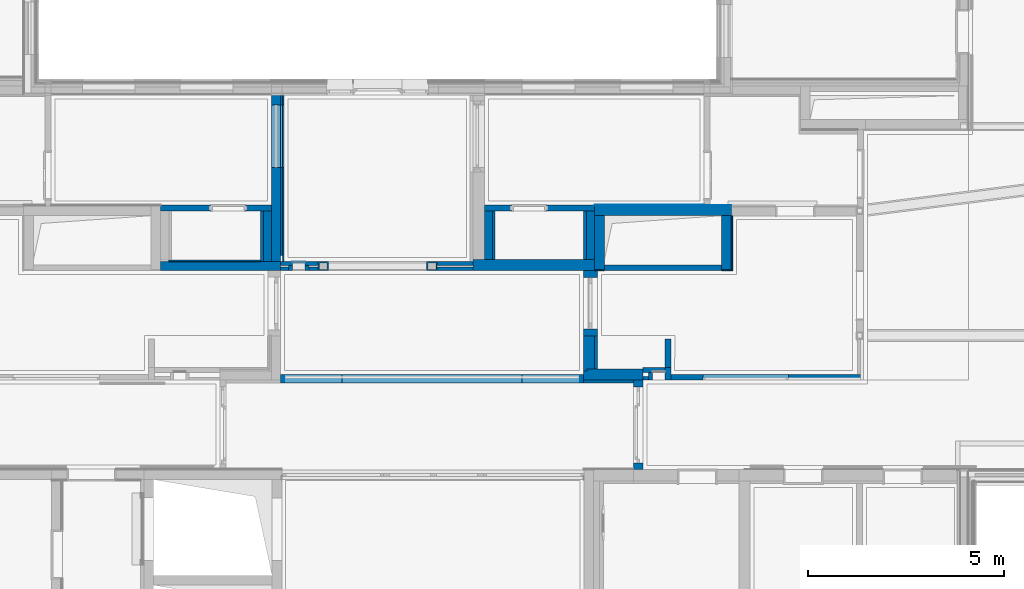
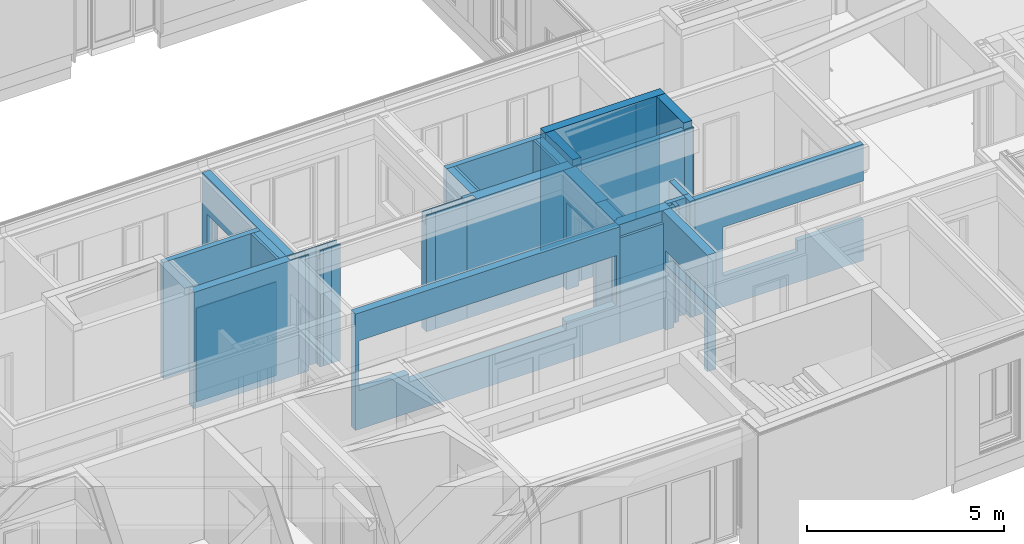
# One storey, part 27 of 207: 47 walls, 12 openings.
"""IFC4 building model written with IfcOpenShell, lengths in metres."""

from ifc_helpers import new_model, entity, si_unit, converted_unit, derived_unit, frame, frame_2d, origin, origin_with_axes, place, context, subcontext, project, spatial, polyline, rectangle, outline, extrude, clip, bounded_halfspace, material, element, save


model = new_model("IFC4")

# Units and contexts
model_context = context("Model", 3, precision=1e-05, world=origin())
body_context = subcontext(model_context, "Body", "Model", "MODEL_VIEW")
ifc_project = project(units=[si_unit("LENGTHUNIT", "METRE"), si_unit("AREAUNIT", "SQUARE_METRE"), si_unit("VOLUMEUNIT", "CUBIC_METRE"), si_unit("MASSUNIT", "GRAM", prefix="KILO"), converted_unit("PLANEANGLEUNIT", "DEGREE", entity("IfcPlaneAngleMeasure", 0.0174532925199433), si_unit("PLANEANGLEUNIT", "RADIAN"), dimensions=[0, 0, 0, 0, 0, 0, 0]), derived_unit("THERMALTRANSMITTANCEUNIT", [(si_unit("POWERUNIT", "WATT"), 1), (si_unit("THERMODYNAMICTEMPERATUREUNIT", "KELVIN"), -1), (si_unit("LENGTHUNIT", "METRE"), -2)]), derived_unit("VOLUMETRICFLOWRATEUNIT", [(si_unit("LENGTHUNIT", "METRE"), 3), (converted_unit("TIMEUNIT", "hour", entity("IfcTimeMeasure", 3600.0), si_unit("TIMEUNIT", "SECOND"), dimensions=[0, 0, 1, 0, 0, 0, 0]), -1), (si_unit("LENGTHUNIT", "METRE"), -1)])], contexts=[model_context])

# Site, building, storey
site_placement = place(None, origin())
site = spatial("IfcSite", under=ifc_project, at=site_placement, Name="Psychiatrie Neubau Wunstorf", CompositionType="ELEMENT")
building_placement = place(site_placement, origin())
building = spatial("IfcBuilding", under=site, at=building_placement, Name="Neubau H2 Stationsgebäude", CompositionType="ELEMENT")
storey_placement = place(building_placement, frame((0.0, 0.0, -0.2)))
storey = spatial("IfcBuildingStorey", under=building, at=storey_placement, Name="H2 Ebene 0", CompositionType="ELEMENT", Elevation=-0.2)

# Walls
ifc_material_1 = material(Name="WI-HW 60")
wall_1_placement = place(storey_placement, frame((58.2600000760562, 3.95247719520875, 0.0), z_axis=(0.0, 0.0, 1.0), x_axis=(0.0, -1.0, 0.0)))
element("IfcWall", 1, at=wall_1_placement, inside=storey, material=ifc_material_1, context=body_context, shape_type="SweptSolid", body=[
    extrude(outline(polyline([(-0.903000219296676, 0.0), (0.0, 0.0), (0.0, 0.0999925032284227), (-0.0579999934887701, 0.0999875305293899), (-0.0580162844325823, 0.289999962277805), (-0.903000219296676, 0.289999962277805), (-0.903000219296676, 0.0)])), frame((0.903000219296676, 0.0, 0.0), z_axis=(0.0, 0.0, 1.0), x_axis=(1.0, 0.0, 0.0)), (0.0, 0.0, 1.0), 3.6),
])
ifc_material_2 = material(Name="WI-LB")
wall_2_placement = place(storey_placement, frame((58.550000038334, 3.95247719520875, 0.0), z_axis=(0.0, 0.0, 1.0), x_axis=(0.0, -1.0, 0.0)))
element("IfcWall", 2, at=wall_2_placement, inside=storey, material=ifc_material_2, context=body_context, shape_type="SweptSolid", body=[
    extrude(outline(polyline([(-0.844983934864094, 0.0), (0.0, 0.0), (-6.43021498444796e-06, 0.075), (-0.844983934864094, 0.075), (-0.844983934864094, 0.0)])), frame((0.844983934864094, 0.0, 0.0), z_axis=(0.0, 0.0, 1.0), x_axis=(1.0, 0.0, 0.0)), (0.0, 0.0, 1.0), 3.6),
])
ifc_material_3 = material(Name="Installationsraum")
wall_3_placement = place(storey_placement, frame((50.2860000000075, 5.84950021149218, 0.0), z_axis=(0.0, 0.0, 1.0), x_axis=(0.0, 1.0, 0.0)))
element("IfcWall", 3, at=wall_3_placement, inside=storey, material=ifc_material_3, context=body_context, shape_type="SweptSolid", body=[
    extrude(rectangle(XDim=1.30049947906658, YDim=0.2, at=frame_2d((0.65024973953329, 0.1), x_axis=(1.0, 0.0))), origin_with_axes(), (0.0, 0.0, 1.0), 3.6),
])
ifc_material_4 = material(Name="WI-VS")
wall_4_placement = place(storey_placement, frame((50.0860000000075, 5.84950021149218, 0.0), z_axis=(0.0, 0.0, 1.0), x_axis=(0.0, 1.0, 0.0)))
element("IfcWall", 4, at=wall_4_placement, inside=storey, material=ifc_material_4, context=body_context, shape_type="SweptSolid", body=[
    extrude(rectangle(XDim=1.30049947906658, YDim=0.075, at=frame_2d((0.65024973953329, 0.0375), x_axis=(1.0, 0.0))), origin_with_axes(), (0.0, 0.0, 1.0), 3.6),
])
ifc_material_5 = material(Name="Installationsraum")
wall_5_placement = place(storey_placement, frame((58.5500000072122, 5.90749969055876, 0.0), z_axis=(0.0, 0.0, 1.0), x_axis=(0.0, 1.0, 0.0)))
element("IfcWall", 5, at=wall_5_placement, inside=storey, material=ifc_material_5, context=body_context, shape_type="SweptSolid", body=[
    extrude(rectangle(XDim=1.2425, YDim=0.21, at=frame_2d((0.62125, 0.105), x_axis=(1.0, 0.0))), origin_with_axes(), (0.0, 0.0, 1.0), 3.6),
])
ifc_material_6 = material(Name="WI-VS")
wall_6_placement = place(storey_placement, frame((58.3400000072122, 5.90749969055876, 0.0), z_axis=(0.0, 0.0, 1.0), x_axis=(0.0, 1.0, 0.0)))
element("IfcWall", 6, at=wall_6_placement, inside=storey, material=ifc_material_6, context=body_context, shape_type="SweptSolid", body=[
    extrude(rectangle(XDim=1.2425, YDim=0.075, at=frame_2d((0.62125, 0.0375), x_axis=(1.0, 0.0))), origin_with_axes(), (0.0, 0.0, 1.0), 3.6),
])
ifc_material_7 = material(Name="Installationsraum")
wall_7_placement = place(storey_placement, frame((55.7325000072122, 7.14999969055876, 0.0), z_axis=(0.0, 0.0, 1.0), x_axis=(0.0, -1.0, 0.0)))
element("IfcWall", 7, at=wall_7_placement, inside=storey, material=ifc_material_7, context=body_context, shape_type="SweptSolid", body=[
    extrude(rectangle(XDim=1.2425, YDim=0.2, at=frame_2d((0.62125, 0.1), x_axis=(1.0, 0.0))), origin_with_axes(), (0.0, 0.0, 1.0), 3.6),
])
ifc_material_8 = material(Name="WI-VS")
wall_8_placement = place(storey_placement, frame((55.9325000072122, 7.14999969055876, 0.0), z_axis=(0.0, 0.0, 1.0), x_axis=(0.0, -1.0, 0.0)))
element("IfcWall", 8, at=wall_8_placement, inside=storey, material=ifc_material_8, context=body_context, shape_type="SweptSolid", body=[
    extrude(rectangle(XDim=1.2425, YDim=0.075, at=frame_2d((0.62125, 0.0375), x_axis=(1.0, 0.0))), origin_with_axes(), (0.0, 0.0, 1.0), 3.6),
])
ifc_material_9 = material(Name="WI-HW 60")
wall_9_placement = place(storey_placement, frame((58.5500000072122, 5.90749969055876, 0.0), z_axis=(0.0, 0.0, 1.0), x_axis=(-1.0, 0.0, 0.0)))
element("IfcWall", 9, at=wall_9_placement, inside=storey, material=ifc_material_9, context=body_context, shape_type="Clipping", body=[
    clip(extrude(rectangle(XDim=3.1075, YDim=0.29, at=frame_2d((1.55375, 0.145), x_axis=(1.0, 0.0))), origin_with_axes(), (0.0, 0.0, 1.0), 3.6), bounded_halfspace(frame((2.96250009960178, 0.173999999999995, 3.3), z_axis=(0.0, 0.0, -1.0), x_axis=(0.0, 1.0, 0.0)), True, origin_with_axes(), polyline([(3.1075, 0.0939999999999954), (3.1075, 0.253999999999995), (2.81750019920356, 0.253999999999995), (2.81750019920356, 0.0939999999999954), (3.1075, 0.0939999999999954)]))),
])
ifc_material_10 = material(Name="WI-STB")
wall_10_placement = place(storey_placement, frame((58.5500000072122, 7.02499969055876, 0.0)))
element("IfcWall", 10, at=wall_10_placement, inside=storey, material=ifc_material_10, context=body_context, shape_type="SweptSolid", body=[
    extrude(rectangle(XDim=3.5, YDim=0.25, at=frame_2d((1.75, 0.125), x_axis=(1.0, 0.0))), origin_with_axes(), (0.0, 0.0, 1.0), 3.8),
])
ifc_material_11 = material(Name="WI-STB")
wall_11_placement = place(storey_placement, frame((58.5500000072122, 7.02499969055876, 0.0), z_axis=(0.0, 0.0, 1.0), x_axis=(0.0, -1.0, 0.0)))
element("IfcWall", 11, at=wall_11_placement, inside=storey, material=ifc_material_11, context=body_context, shape_type="SweptSolid", body=[
    extrude(rectangle(XDim=1.3775, YDim=0.25, at=frame_2d((0.68875, 0.125), x_axis=(1.0, 0.0))), origin_with_axes(), (0.0, 0.0, 1.0), 3.8),
])

# Wall, opening
ifc_material_12 = material(Name="WI-LB")
wall_12_placement = place(storey_placement, frame((58.5500000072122, 7.29999969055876, 0.0), z_axis=(0.0, 0.0, 1.0), x_axis=(-1.0, 0.0, 0.0)))
wall_12 = element("IfcWall", 12, at=wall_12_placement, inside=storey, material=ifc_material_12, context=body_context, shape_type="SweptSolid", body=[
    extrude(rectangle(XDim=2.8175, YDim=0.15, at=frame_2d((1.40875, 0.075), x_axis=(1.0, 0.0))), origin_with_axes(), (0.0, 0.0, 1.0), 3.6),
])
opening_1_placement = place(wall_12_placement, frame((2.1205, 0.15, 0.0), z_axis=(0.0, -1.0, 0.0), x_axis=(0.0, 0.0, 1.0)))
element("IfcOpeningElement", 13, at=opening_1_placement, cuts=wall_12, Name="Türöffnung", ObjectType="Opening", context=body_context, shape_type="SweptSolid", body=[
    extrude(outline(polyline([(2.46, 0.885), (2.46, 0.0), (0.0, 0.0), (0.0, 0.885), (2.46, 0.885)])), origin_with_axes(), (0.0, 0.0, 1.0), 0.15),
])

# Wall
ifc_material_13 = material(Name="WI-LB")
wall_13_placement = place(storey_placement, frame((50.8210650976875, 5.82449969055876, 0.0)))
element("IfcWall", 14, at=wall_13_placement, inside=storey, material=ifc_material_13, context=body_context, shape_type="SweptSolid", body=[
    extrude(rectangle(XDim=0.325000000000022, YDim=0.025, at=frame_2d((0.162500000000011, 0.0125), x_axis=(1.0, 0.0))), origin_with_axes(), (0.0, 0.0, 1.0), 3.6),
])

# Wall, opening
ifc_material_14 = material(Name="WI-LB")
wall_14_placement = place(storey_placement, frame((50.2860000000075, 7.29999969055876, 0.0), z_axis=(0.0, 0.0, 1.0), x_axis=(-1.0, 0.0, 0.0)))
wall_14 = element("IfcWall", 15, at=wall_14_placement, inside=storey, material=ifc_material_14, context=body_context, shape_type="SweptSolid", body=[
    extrude(rectangle(XDim=2.836, YDim=0.15, at=frame_2d((1.418, 0.075), x_axis=(1.0, 0.0))), origin_with_axes(), (0.0, 0.0, 1.0), 3.6),
])
opening_2_placement = place(wall_14_placement, frame((1.5535, 0.15, 0.0), z_axis=(0.0, -1.0, 0.0), x_axis=(0.0, 0.0, 1.0)))
element("IfcOpeningElement", 16, at=opening_2_placement, cuts=wall_14, Name="Türöffnung", ObjectType="Opening", context=body_context, shape_type="SweptSolid", body=[
    extrude(outline(polyline([(2.46, 0.885), (2.46, 0.0), (0.0, 0.0), (0.0, 0.885), (2.46, 0.885)])), origin_with_axes(), (0.0, 0.0, 1.0), 0.15),
])

# Walls
ifc_material_15 = material(Name="WI-LB")
wall_15_placement = place(storey_placement, frame((61.35, 7.27499969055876, 0.0)))
element("IfcWall", 17, at=wall_15_placement, inside=storey, material=ifc_material_15, context=body_context, shape_type="SweptSolid", body=[
    extrude(rectangle(XDim=0.700000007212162, YDim=0.02, at=frame_2d((0.350000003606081, 0.01), x_axis=(1.0, 0.0))), origin_with_axes(), (0.0, 0.0, 1.0), 3.6),
])
ifc_material_16 = material(Name="WI-LB")
wall_16_placement = place(storey_placement, frame((62.0500000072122, 7.02299969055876, 0.0), z_axis=(0.0, 0.0, 1.0), x_axis=(0.0, -1.0, 0.0)))
element("IfcWall", 18, at=wall_16_placement, inside=storey, material=ifc_material_16, context=body_context, shape_type="SweptSolid", body=[
    extrude(rectangle(XDim=1.40549963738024, YDim=0.0299996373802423, at=frame_2d((0.702749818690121, 0.0149998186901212), x_axis=(1.0, 0.0))), origin_with_axes(), (0.0, 0.0, 1.0), 3.6),
])
ifc_material_17 = material(Name="WI-LB")
wall_17_placement = place(storey_placement, frame((58.5500000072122, 7.27499969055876, 0.0)))
element("IfcWall", 19, at=wall_17_placement, inside=storey, material=ifc_material_17, context=body_context, shape_type="SweptSolid", body=[
    extrude(rectangle(XDim=2.79999999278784, YDim=0.025, at=frame_2d((1.39999999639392, 0.0125), x_axis=(1.0, 0.0))), origin_with_axes(), (0.0, 0.0, 1.0), 3.6),
])
ifc_material_18 = material(Name="WI-LB")
wall_18_placement = place(storey_placement, frame((61.8000000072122, 5.61750005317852, 0.0)))
element("IfcWall", 20, at=wall_18_placement, inside=storey, material=ifc_material_18, context=body_context, shape_type="SweptSolid", body=[
    extrude(rectangle(XDim=0.25, YDim=0.0299996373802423, at=frame_2d((0.125, 0.0149998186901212), x_axis=(1.0, 0.0))), origin_with_axes(), (0.0, 0.0, 1.0), 3.6),
])
ifc_material_19 = material(Name="WI-LB")
wall_19_placement = place(storey_placement, frame((58.8000000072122, 5.61749969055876, 0.0)))
element("IfcWall", 21, at=wall_19_placement, inside=storey, material=ifc_material_19, context=body_context, shape_type="SweptSolid", body=[
    extrude(rectangle(XDim=3.0, YDim=0.15, at=frame_2d((1.5, 0.075), x_axis=(1.0, 0.0))), origin_with_axes(), (0.0, 0.0, 1.0), 3.6),
])
ifc_material_20 = material(Name="WI-STB")
wall_20_placement = place(storey_placement, frame((61.8000000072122, 7.02499969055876, 0.0), z_axis=(0.0, 0.0, 1.0), x_axis=(0.0, -1.0, 0.0)))
element("IfcWall", 22, at=wall_20_placement, inside=storey, material=ifc_material_20, context=body_context, shape_type="SweptSolid", body=[
    extrude(rectangle(XDim=1.3775, YDim=0.25, at=frame_2d((0.68875, 0.125), x_axis=(1.0, 0.0))), origin_with_axes(), (0.0, 0.0, 1.0), 3.8),
])
ifc_material_21 = material(Name="WI-LB")
wall_21_placement = place(storey_placement, frame((58.5500000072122, 5.61750005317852, 0.0)))
element("IfcWall", 23, at=wall_21_placement, inside=storey, material=ifc_material_21, context=body_context, shape_type="SweptSolid", body=[
    extrude(rectangle(XDim=0.25, YDim=0.0299996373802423, at=frame_2d((0.125, 0.0149998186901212), x_axis=(1.0, 0.0))), origin_with_axes(), (0.0, 0.0, 1.0), 3.6),
])
ifc_material_22 = material(Name="WI-IW")
wall_22_placement = place(storey_placement, frame((59.9250000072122, 3.01756972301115, 0.0), z_axis=(0.0, 0.0, 1.0), x_axis=(0.0, -1.0, 0.0)))
element("IfcWall", 24, at=wall_22_placement, inside=storey, material=ifc_material_22, context=body_context, shape_type="SweptSolid", body=[
    extrude(rectangle(XDim=0.200056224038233, YDim=0.1, at=frame_2d((0.100028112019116, 0.05), x_axis=(1.0, 0.0))), origin_with_axes(), (0.0, 0.0, 1.0), 3.6),
])
ifc_material_23 = material(Name="WI-IW")
wall_23_placement = place(storey_placement, frame((59.9250000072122, 2.91751349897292, 0.0), z_axis=(0.0, 0.0, 1.0), x_axis=(-1.0, 0.0, 0.0)))
element("IfcWall", 25, at=wall_23_placement, inside=storey, material=ifc_material_23, context=body_context, shape_type="SweptSolid", body=[
    extrude(rectangle(XDim=0.135686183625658, YDim=0.100000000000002, at=frame_2d((0.0678430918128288, 0.0500000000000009), x_axis=(1.0, 0.0))), origin_with_axes(), (0.0, 0.0, 1.0), 3.6),
])
ifc_material_24 = material(Name="WI-LB")
wall_24_placement = place(storey_placement, frame((60.3500000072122, 3.14256972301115, 0.0), z_axis=(0.0, 0.0, 1.0), x_axis=(-1.0, 0.0, 0.0)))
element("IfcWall", 26, at=wall_24_placement, inside=storey, material=ifc_material_24, context=body_context, shape_type="SweptSolid", body=[
    extrude(rectangle(XDim=0.560686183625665, YDim=0.125, at=frame_2d((0.280343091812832, 0.0625), x_axis=(1.0, 0.0))), origin_with_axes(), (0.0, 0.0, 1.0), 3.6),
])

# Wall, openings
ifc_material_25 = material(Name="WI-RIR")
wall_25_placement = place(storey_placement, frame((60.5000000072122, 2.81762600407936, 0.0), z_axis=(0.0, 0.0, 1.0), x_axis=(0.999999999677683, -2.5389652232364e-05, 0.0)))
wall_25 = element("IfcWall", 27, at=wall_25_placement, inside=storey, material=ifc_material_25, context=body_context, shape_type="SweptSolid", body=[
    extrude(outline(polyline([(0.0, 0.000125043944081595), (4.92499632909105, 0.000125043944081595), (4.92499252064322, 0.150125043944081), (0.0, 0.150125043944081), (0.0, 0.000125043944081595)])), frame((0.0, -0.000125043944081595, 0.0), z_axis=(0.0, 0.0, 1.0), x_axis=(1.0, 0.0, 0.0)), (0.0, 0.0, 1.0), 3.6),
])
opening_3_placement = place(wall_25_placement, frame((3.00236463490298, 0.0, 1.28), z_axis=(0.0, 0.0, 1.0), x_axis=(1.0, 8.90506778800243e-16, 0.0)))
element("IfcOpeningElement", 28, at=opening_3_placement, cuts=wall_25, Name="Fensteröffnung", ObjectType="Opening", context=body_context, shape_type="SweptSolid", body=[
    extrude(outline(polyline([(0.0, 0.0), (1.9226316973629, 0.0), (1.92262788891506, 0.149999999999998), (0.0, 0.150000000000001), (0.0, 0.0)])), origin_with_axes(), (0.0, 0.0, 1.0), 1.18),
])
opening_4_placement = place(wall_25_placement, frame((0.817618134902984, 0.0, 0.950000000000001), z_axis=(-1.88113820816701e-12, 1.0, 0.0), x_axis=(0.0, 0.0, 1.0)))
element("IfcOpeningElement", 29, at=opening_4_placement, cuts=wall_25, Name="Fensteröffnung", ObjectType="Opening", context=body_context, shape_type="SweptSolid", body=[
    extrude(outline(polyline([(1.51, 2.1847465), (1.51, 0.0), (0.0, 0.0), (0.0, 2.1847465), (1.51, 2.1847465)])), origin_with_axes(), (0.0, 0.0, 1.0), 0.15),
])

# Walls
ifc_material_26 = material(Name="WI-LB")
wall_26_placement = place(storey_placement, frame((55.4425000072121, 5.84949969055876, 0.0), z_axis=(0.0, 0.0, 1.0), x_axis=(-1.0, 0.0, 0.0)))
element("IfcWall", 30, at=wall_26_placement, inside=storey, material=ifc_material_26, context=body_context, shape_type="Clipping", body=[
    clip(extrude(rectangle(XDim=0.918006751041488, YDim=0.1, at=frame_2d((0.459003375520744, 0.05), x_axis=(1.0, 0.0))), origin_with_axes(), (0.0, 0.0, 1.0), 3.6), bounded_halfspace(frame((0.459003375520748, 0.0679999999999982, 3.3), z_axis=(0.0, 0.0, -1.0), x_axis=(-1.0, 0.0, 0.0)), True, origin_with_axes(), polyline([(0.918006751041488, 0.1), (0.0, 0.1), (0.0, 0.0359999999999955), (0.918006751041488, 0.0359999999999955), (0.918006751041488, 0.1)]))),
])
ifc_material_27 = material(Name="WI-LB")
wall_27_placement = place(storey_placement, frame((54.5244932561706, 5.61749969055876, 0.0)))
element("IfcWall", 31, at=wall_27_placement, inside=storey, material=ifc_material_27, context=body_context, shape_type="Clipping", body=[
    clip(extrude(rectangle(XDim=0.918006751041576, YDim=0.1, at=frame_2d((0.459003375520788, 0.05), x_axis=(1.0, 0.0))), origin_with_axes(), (0.0, 0.0, 1.0), 3.6), bounded_halfspace(frame((0.459003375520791, 0.0680000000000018, 3.3), z_axis=(0.0, 0.0, -1.0), x_axis=(0.0, -1.0, 0.0)), True, origin_with_axes(), polyline([(0.0, 0.1), (0.0, 0.0360000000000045), (0.918006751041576, 0.0360000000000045), (0.918006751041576, 0.1), (0.0, 0.1)]))),
])
ifc_material_28 = material(Name="WI-LB")
wall_28_placement = place(storey_placement, frame((51.4759953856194, 5.84949969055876, 0.0), z_axis=(0.0, 0.0, 1.0), x_axis=(-1.0, 0.0, 0.0)))
element("IfcWall", 32, at=wall_28_placement, inside=storey, material=ifc_material_28, context=body_context, shape_type="Clipping", body=[
    clip(extrude(rectangle(XDim=0.329930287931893, YDim=0.1, at=frame_2d((0.164965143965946, 0.05), x_axis=(1.0, 0.0))), origin_with_axes(), (0.0, 0.0, 1.0), 3.6), bounded_halfspace(frame((0.164965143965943, 0.0679999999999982, 3.3), z_axis=(0.0, 0.0, -1.0), x_axis=(1.0, 0.0, 0.0)), True, origin_with_axes(), polyline([(0.0, 0.0359999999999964), (0.329930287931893, 0.0359999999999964), (0.329930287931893, 0.1), (0.0, 0.1), (0.0, 0.0359999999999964)]))),
])
ifc_material_29 = material(Name="WI-LB")
wall_29_placement = place(storey_placement, frame((51.1460650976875, 5.74949969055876, 0.0), z_axis=(0.0, 0.0, 1.0), x_axis=(0.0, -1.0, 0.0)))
element("IfcWall", 33, at=wall_29_placement, inside=storey, material=ifc_material_29, context=body_context, shape_type="Clipping", body=[
    clip(extrude(rectangle(XDim=0.131999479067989, YDim=0.1, at=frame_2d((0.0659997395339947, 0.05), x_axis=(1.0, 0.0))), origin_with_axes(), (0.0, 0.0, 1.0), 3.6), bounded_halfspace(frame((0.0479999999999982, 0.05, 3.3), z_axis=(0.0, 0.0, -1.0), x_axis=(1.0, 0.0, 0.0)), True, origin_with_axes(), polyline([(0.0, 0.0), (0.0959999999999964, 0.0), (0.0959999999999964, 0.1), (0.0, 0.1), (0.0, 0.0)]))),
])
ifc_material_30 = material(Name="WI-LB")
wall_30_placement = place(storey_placement, frame((51.2460650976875, 5.61750021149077, 0.0)))
element("IfcWall", 34, at=wall_30_placement, inside=storey, material=ifc_material_30, context=body_context, shape_type="Clipping", body=[
    clip(extrude(rectangle(XDim=0.229930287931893, YDim=0.1, at=frame_2d((0.114965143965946, 0.05), x_axis=(1.0, 0.0))), origin_with_axes(), (0.0, 0.0, 1.0), 3.6), bounded_halfspace(frame((0.11496514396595, 0.067999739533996, 3.3), z_axis=(0.0, 0.0, -1.0), x_axis=(0.0, -1.0, 0.0)), True, origin_with_axes(), polyline([(0.0, 0.1), (0.0, 0.035999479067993), (0.229930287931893, 0.035999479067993), (0.229930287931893, 0.1), (0.0, 0.1)]))),
])
ifc_material_31 = material(Name="WI-LB")
wall_31_placement = place(storey_placement, frame((50.8210650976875, 5.84949969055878, 0.0), z_axis=(0.0, 0.0, 1.0), x_axis=(-1.0, 0.0, 0.0)))
element("IfcWall", 35, at=wall_31_placement, inside=storey, material=ifc_material_31, context=body_context, shape_type="Clipping", body=[
    clip(extrude(rectangle(XDim=0.303065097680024, YDim=0.1, at=frame_2d((0.151532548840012, 0.05), x_axis=(1.0, 0.0))), origin_with_axes(), (0.0, 0.0, 1.0), 3.6), bounded_halfspace(frame((0.151532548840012, 0.0680000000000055, 3.3), z_axis=(0.0, 0.0, -1.0), x_axis=(-1.0, 0.0, 0.0)), True, origin_with_axes(), polyline([(0.303065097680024, 0.1), (0.0, 0.1), (0.0, 0.03600000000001), (0.303065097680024, 0.03600000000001), (0.303065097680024, 0.1)]))),
])
ifc_material_32 = material(Name="WI-LB")
wall_32_placement = place(storey_placement, frame((50.8210650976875, 5.61749969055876, 0.0), z_axis=(0.0, 0.0, 1.0), x_axis=(0.0, 1.0, 0.0)))
element("IfcWall", 36, at=wall_32_placement, inside=storey, material=ifc_material_32, context=body_context, shape_type="Clipping", body=[
    clip(extrude(rectangle(XDim=0.132000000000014, YDim=0.1, at=frame_2d((0.0660000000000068, 0.05), x_axis=(1.0, 0.0))), origin_with_axes(), (0.0, 0.0, 1.0), 3.6), bounded_halfspace(frame((0.0840000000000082, 0.05, 3.3), z_axis=(0.0, 0.0, -1.0), x_axis=(-1.0, 0.0, 0.0)), True, origin_with_axes(), polyline([(0.132000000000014, 0.1), (0.0360000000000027, 0.1), (0.0360000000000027, 0.0), (0.132000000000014, 0.0), (0.132000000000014, 0.1)]))),
])
ifc_material_33 = material(Name="WI-LB")
wall_33_placement = place(storey_placement, frame((50.5180000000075, 5.61749969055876, 0.0)))
element("IfcWall", 37, at=wall_33_placement, inside=storey, material=ifc_material_33, context=body_context, shape_type="Clipping", body=[
    clip(extrude(rectangle(XDim=0.203065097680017, YDim=0.1, at=frame_2d((0.101532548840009, 0.05), x_axis=(1.0, 0.0))), origin_with_axes(), (0.0, 0.0, 1.0), 3.6), bounded_halfspace(frame((0.101532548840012, 0.0680000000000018, 3.3), z_axis=(0.0, 0.0, -1.0), x_axis=(0.0, -1.0, 0.0)), True, origin_with_axes(), polyline([(0.0, 0.1), (0.0, 0.0360000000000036), (0.203065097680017, 0.0360000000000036), (0.203065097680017, 0.1), (0.0, 0.1)]))),
])
ifc_material_34 = material(Name="WI-LB")
wall_34_placement = place(storey_placement, frame((51.4759953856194, 5.61749969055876, 0.0)))
element("IfcWall", 38, at=wall_34_placement, inside=storey, material=ifc_material_34, context=body_context, shape_type="Clipping", body=[
    clip(clip(extrude(outline(polyline([(0.0, 0.0), (0.272, 0.0), (0.272, 0.232), (0.0, 0.232), (0.0, 0.0)]), holes=[polyline([(0.236, 0.196), (0.236, 0.036), (0.036, 0.036), (0.036, 0.196), (0.236, 0.196)])]), origin_with_axes(), (0.0, 0.0, 1.0), 3.6), bounded_halfspace(frame((0.018, 0.116000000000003, 3.3), z_axis=(0.0, 0.0, -1.0), x_axis=(0.0, -1.0, 0.0)), True, origin_with_axes(), polyline([(0.0, 0.196000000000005), (0.0, 0.0360000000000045), (0.036, 0.036), (0.036, 0.196), (0.0, 0.196000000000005)]))), bounded_halfspace(frame((0.254, 0.116000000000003, 3.3), z_axis=(0.0, 0.0, -1.0), x_axis=(0.0, -1.0, 0.0)), True, origin_with_axes(), polyline([(0.236, 0.196), (0.236, 0.036), (0.272, 0.0360000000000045), (0.272, 0.196000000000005), (0.236, 0.196)]))),
])
ifc_material_35 = material(Name="WI-LB")
wall_35_placement = place(storey_placement, frame((54.2524932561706, 5.61749969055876, 0.0)))
element("IfcWall", 39, at=wall_35_placement, inside=storey, material=ifc_material_35, context=body_context, shape_type="Clipping", body=[
    clip(clip(extrude(outline(polyline([(0.0, 0.0), (0.272, 0.0), (0.272, 0.232), (0.0, 0.232), (0.0, 0.0)]), holes=[polyline([(0.236, 0.196000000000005), (0.236, 0.0360000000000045), (0.036, 0.0360000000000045), (0.036, 0.196000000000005), (0.236, 0.196000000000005)])]), origin_with_axes(), (0.0, 0.0, 1.0), 3.6), bounded_halfspace(frame((0.018, 0.116000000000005, 3.3), z_axis=(0.0, 0.0, -1.0), x_axis=(0.0, -1.0, 0.0)), True, origin_with_axes(), polyline([(0.0, 0.196000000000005), (0.0, 0.0360000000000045), (0.036, 0.0360000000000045), (0.036, 0.196000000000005), (0.0, 0.196000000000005)]))), bounded_halfspace(frame((0.254, 0.116000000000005, 3.3), z_axis=(0.0, 0.0, -1.0), x_axis=(0.0, -1.0, 0.0)), True, origin_with_axes(), polyline([(0.236, 0.196000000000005), (0.236, 0.0360000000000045), (0.272, 0.0360000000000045), (0.272, 0.196000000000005), (0.236, 0.196000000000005)]))),
])
ifc_material_36 = material(Name="WI-LB")
wall_36_placement = place(storey_placement, frame((58.2601451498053, 2.74249970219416, 0.0), z_axis=(0.0, 0.0, 1.0), x_axis=(0.999999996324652, 8.57361989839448e-05, 0.0)))
element("IfcWall", 40, at=wall_36_placement, inside=storey, material=ifc_material_36, context=body_context, shape_type="SweptSolid", body=[
    extrude(outline(polyline([(6.42965000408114e-06, 0.0), (1.27917510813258, 0.0), (1.27918153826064, 0.074998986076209), (6.42965000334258e-06, 0.0749934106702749), (6.42965000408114e-06, 0.0)])), frame((-6.42965000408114e-06, 0.0, 0.0), z_axis=(0.0, 0.0, 1.0), x_axis=(1.0, 0.0, 0.0)), (0.0, 0.0, 1.0), 3.25),
])
ifc_material_37 = material(Name="WI-HW 60")
wall_37_placement = place(storey_placement, frame((58.2601451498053, 2.81749311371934, 0.0), z_axis=(0.0, 0.0, 1.0), x_axis=(0.999999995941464, 9.00947937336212e-05, 0.0)))
element("IfcWall", 41, at=wall_37_placement, inside=storey, material=ifc_material_37, context=body_context, shape_type="SweptSolid", body=[
    extrude(outline(polyline([(2.63190646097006e-05, 0.0), (1.52919499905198, 0.0), (1.52922112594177, 0.289993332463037), (0.364907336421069, 0.289998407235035), (0.364907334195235, 0.289973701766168), (0.0998949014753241, 0.289974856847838), (0.0998946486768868, 0.231974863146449), (2.09005382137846e-05, 0.231983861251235), (2.05432611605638e-05, 0.150013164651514), (3.98344698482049e-05, 0.150013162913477), (2.63190646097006e-05, 0.0)])), frame((-2.63190646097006e-05, 0.0, 0.0), z_axis=(0.0, 0.0, 1.0), x_axis=(1.0, 0.0, 0.0)), (0.0, 0.0, 1.0), 3.6),
])

# Wall, opening
ifc_material_38 = material(Name="WI-LW 60")
wall_38_placement = place(storey_placement, frame((58.2600000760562, 5.61747697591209, 0.0), z_axis=(0.0, 0.0, 1.0), x_axis=(0.0, -1.0, 0.0)))
wall_38 = element("IfcWall", 42, at=wall_38_placement, inside=storey, material=ifc_material_38, context=body_context, shape_type="SweptSolid", body=[
    extrude(rectangle(XDim=1.66499978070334, YDim=0.365, at=frame_2d((0.832499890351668, 0.1825), x_axis=(1.0, 0.0))), origin_with_axes(), (0.0, 0.0, 1.0), 3.6),
])
opening_5_placement = place(wall_38_placement, frame((1.49499971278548, 0.365, 0.0), z_axis=(0.0, -1.0, 0.0), x_axis=(0.0, 0.0, 1.0)))
element("IfcOpeningElement", 43, at=opening_5_placement, cuts=wall_38, Name="Türöffnung", ObjectType="Opening", context=body_context, shape_type="SweptSolid", body=[
    extrude(outline(polyline([(2.7, 1.32502470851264), (2.7, 0.0), (0.0, 0.0), (0.0, 1.32502470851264), (2.7, 1.32502470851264)])), origin_with_axes(), (0.0, 0.0, 1.0), 0.365),
])

ifc_material_39 = material(Name="WI-LW 60")
wall_39_placement = place(storey_placement, frame((59.5393138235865, 2.81760836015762, 0.0), z_axis=(0.0, 0.0, 1.0), x_axis=(0.0, -1.0, 0.0)))
wall_39 = element("IfcWall", 44, at=wall_39_placement, inside=storey, material=ifc_material_39, context=body_context, shape_type="SweptSolid", body=[
    extrude(outline(polyline([(-2.28160591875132, 0.0), (0.0, 0.0), (0.0, 0.25), (-2.28162844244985, 0.25), (-2.28160591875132, 0.0)])), frame((2.28160591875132, 0.0, 0.0), z_axis=(0.0, 0.0, 1.0), x_axis=(1.0, 0.0, 0.0)), (0.0, 0.0, 1.0), 3.6),
])
opening_6_placement = place(wall_39_placement, frame((2.11161344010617, 0.25, 0.0), z_axis=(0.0, -1.0, 0.0), x_axis=(0.0, 0.0, 1.0)))
element("IfcOpeningElement", 45, at=opening_6_placement, cuts=wall_39, Name="Türöffnung", ObjectType="Opening", context=body_context, shape_type="SweptSolid", body=[
    extrude(outline(polyline([(2.46, 1.9416311), (2.46, 0.0), (0.0, 0.0), (0.0, 1.9416311), (2.46, 1.9416311)])), origin_with_axes(), (0.0, 0.0, 1.0), 0.25),
])

ifc_material_40 = material(Name="WI-LB")
wall_40_placement = place(storey_placement, frame((50.6080000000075, 5.84949969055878, 0.0), z_axis=(0.0, 0.0, 1.0), x_axis=(0.0, 1.0, 0.0)))
wall_40 = element("IfcWall", 46, at=wall_40_placement, inside=storey, material=ifc_material_40, context=body_context, shape_type="SweptSolid", body=[
    extrude(rectangle(XDim=4.26449999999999, YDim=0.04, at=frame_2d((2.13224999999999, 0.02), x_axis=(1.0, 0.0))), origin_with_axes(), (0.0, 0.0, 1.0), 3.2),
])
opening_7_placement = place(wall_40_placement, frame((2.40199999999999, 0.0, 1.15), z_axis=(0.0, 1.0, 0.0), x_axis=(0.0, 0.0, 1.0)))
element("IfcOpeningElement", 47, at=opening_7_placement, cuts=wall_40, Name="Fensteröffnung", ObjectType="Opening", context=body_context, shape_type="SweptSolid", body=[
    extrude(outline(polyline([(1.31, 1.6), (1.31, 0.0), (0.0, 0.0), (0.0, 1.6), (1.31, 1.6)])), origin_with_axes(), (0.0, 0.0, 1.0), 0.04),
])

ifc_material_41 = material(Name="Installationsraum")
wall_41_placement = place(storey_placement, frame((50.5680000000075, 6.01046869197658, 0.0), z_axis=(0.0, 0.0, 1.0), x_axis=(0.0, 1.0, 0.0)))
wall_41 = element("IfcWall", 48, at=wall_41_placement, inside=storey, material=ifc_material_41, context=body_context, shape_type="SweptSolid", body=[
    extrude(rectangle(XDim=4.10353099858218, YDim=0.05, at=frame_2d((2.05176549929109, 0.025), x_axis=(1.0, 0.0))), origin_with_axes(), (0.0, 0.0, 1.0), 3.2),
])
opening_8_placement = place(wall_41_placement, frame((2.24103099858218, 0.0, 1.15), z_axis=(0.0, 1.0, 0.0), x_axis=(0.0, 0.0, 1.0)))
element("IfcOpeningElement", 49, at=opening_8_placement, cuts=wall_41, Name="Fensteröffnung", ObjectType="Opening", context=body_context, shape_type="SweptSolid", body=[
    extrude(outline(polyline([(1.31, 1.6), (1.31, 0.0), (0.0, 0.0), (0.0, 1.6), (1.31, 1.6)])), origin_with_axes(), (0.0, 0.0, 1.0), 0.05),
])

ifc_material_42 = material(Name="WI-HW 60")
wall_42_placement = place(storey_placement, frame((50.5180000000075, 5.84950021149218, 0.0), z_axis=(0.0, 0.0, 1.0), x_axis=(0.0, 1.0, 0.0)))
wall_42 = element("IfcWall", 50, at=wall_42_placement, inside=storey, material=ifc_material_42, context=body_context, shape_type="SweptSolid", body=[
    extrude(rectangle(XDim=4.26449947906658, YDim=0.232, at=frame_2d((2.13224973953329, 0.116), x_axis=(1.0, 0.0))), origin_with_axes(), (0.0, 0.0, 1.0), 3.6),
])
opening_9_placement = place(wall_42_placement, frame((2.40199947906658, 0.0, 1.15), z_axis=(0.0, 1.0, 0.0), x_axis=(0.0, 0.0, 1.0)))
element("IfcOpeningElement", 51, at=opening_9_placement, cuts=wall_42, Name="Fensteröffnung", ObjectType="Opening", context=body_context, shape_type="SweptSolid", body=[
    extrude(outline(polyline([(1.31, 1.6), (1.31, 0.0), (0.0, 0.0), (0.0, 1.6), (1.31, 1.6)])), origin_with_axes(), (0.0, 0.0, 1.0), 0.232),
])

# Walls
ifc_material_43 = material(Name="WI-LB")
wall_43_placement = place(storey_placement, frame((50.0110000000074, 5.88950021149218, 0.0), z_axis=(0.0, 0.0, 1.0), x_axis=(-1.0, 0.0, 0.0)))
element("IfcWall", 52, at=wall_43_placement, inside=storey, material=ifc_material_43, context=body_context, shape_type="SweptSolid", body=[
    extrude(rectangle(XDim=2.351, YDim=0.04, at=frame_2d((1.1755, 0.02), x_axis=(1.0, 0.0))), origin_with_axes(), (0.0, 0.0, 1.0), 2.9),
])
ifc_material_44 = material(Name="WI-HW 60")
wall_44_placement = place(storey_placement, frame((50.5180000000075, 5.84950021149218, 0.0), z_axis=(0.0, 0.0, 1.0), x_axis=(-1.0, 0.0, 0.0)))
element("IfcWall", 53, at=wall_44_placement, inside=storey, material=ifc_material_44, context=body_context, shape_type="Clipping", body=[
    clip(extrude(rectangle(XDim=3.068, YDim=0.232, at=frame_2d((1.534, 0.116), x_axis=(1.0, 0.0))), origin_with_axes(), (0.0, 0.0, 1.0), 3.6), bounded_halfspace(frame((0.116249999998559, 0.116000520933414, 3.3), z_axis=(0.0, 0.0, -1.0), x_axis=(0.0, 1.0, 0.0)), True, origin_with_axes(), polyline([(0.232499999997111, 0.036000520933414), (0.232499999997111, 0.196000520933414), (0.0, 0.196000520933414), (0.0, 0.036000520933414), (0.232499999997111, 0.036000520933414)]))),
])
ifc_material_45 = material(Name="WI-LB")
wall_45_placement = place(storey_placement, frame((60.3500000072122, 3.86762600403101, 0.0), z_axis=(0.0, 0.0, 1.0), x_axis=(0.0, -1.0, 0.0)))
element("IfcWall", 54, at=wall_45_placement, inside=storey, material=ifc_material_45, context=body_context, shape_type="SweptSolid", body=[
    extrude(rectangle(XDim=0.725056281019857, YDim=0.15, at=frame_2d((0.362528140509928, 0.075), x_axis=(1.0, 0.0))), origin_with_axes(), (0.0, 0.0, 1.0), 3.6),
])
ifc_material_46 = material(Name="WI-LB")
wall_46_placement = place(storey_placement, frame((60.3500000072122, 3.14256972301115, 0.0), z_axis=(0.0, 0.0, 1.0), x_axis=(0.0, -1.0, 0.0)))
element("IfcWall", 55, at=wall_46_placement, inside=storey, material=ifc_material_46, context=body_context, shape_type="SweptSolid", body=[
    extrude(rectangle(XDim=0.324943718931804, YDim=0.15, at=frame_2d((0.162471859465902, 0.075), x_axis=(1.0, 0.0))), origin_with_axes(), (0.0, 0.0, 1.0), 3.6),
])

# Wall, openings
ifc_material_47 = material(Name="WI-LB")
wall_47_placement = place(storey_placement, frame((58.2601451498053, 2.96750627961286, 0.0), z_axis=(0.0, 0.0, 1.0), x_axis=(-1.0, 0.0, 0.0)))
wall_47 = element("IfcWall", 56, at=wall_47_placement, inside=storey, material=ifc_material_47, context=body_context, shape_type="SweptSolid", body=[
    extrude(rectangle(XDim=7.74213872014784, YDim=0.225, at=frame_2d((3.87106936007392, 0.1125), x_axis=(1.0, 0.0))), origin_with_axes(), (0.0, 0.0, 1.0), 3.6),
])
opening_10_placement = place(wall_47_placement, frame((6.16966852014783, 0.225, 0.950000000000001), z_axis=(0.0, -1.0, 0.0), x_axis=(0.0, 0.0, 1.0)))
element("IfcOpeningElement", 57, at=opening_10_placement, cuts=wall_47, Name="Fensteröffnung", ObjectType="Opening", context=body_context, shape_type="SweptSolid", body=[
    extrude(outline(polyline([(1.79, 4.5972045), (1.79, 0.0), (0.0, 0.0), (0.0, 4.5972045), (1.79, 4.5972045)])), origin_with_axes(), (0.0, 0.0, 1.0), 0.225),
])
opening_11_placement = place(wall_47_placement, frame((7.63419062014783, 0.225, 1.2), z_axis=(0.0, -1.0, 0.0), x_axis=(0.0, 0.0, 1.0)))
element("IfcOpeningElement", 58, at=opening_11_placement, cuts=wall_47, Name="Fensteröffnung", ObjectType="Opening", context=body_context, shape_type="SweptSolid", body=[
    extrude(outline(polyline([(1.54, 1.4645221), (1.54, 0.0), (0.0, 0.0), (0.0, 1.4645221), (1.54, 1.4645221)])), origin_with_axes(), (0.0, 0.0, 1.0), 0.225),
])
opening_12_placement = place(wall_47_placement, frame((1.5724702, 0.225, 1.2), z_axis=(0.0, -1.0, 0.0), x_axis=(0.0, 0.0, 1.0)))
element("IfcOpeningElement", 59, at=opening_12_placement, cuts=wall_47, Name="Fensteröffnung", ObjectType="Opening", context=body_context, shape_type="SweptSolid", body=[
    extrude(outline(polyline([(1.54, 1.4647089), (1.54, 0.0), (0.0, 0.0), (0.0, 1.4647089), (1.54, 1.4647089)])), origin_with_axes(), (0.0, 0.0, 1.0), 0.225),
])

save(model, "model.ifc")
